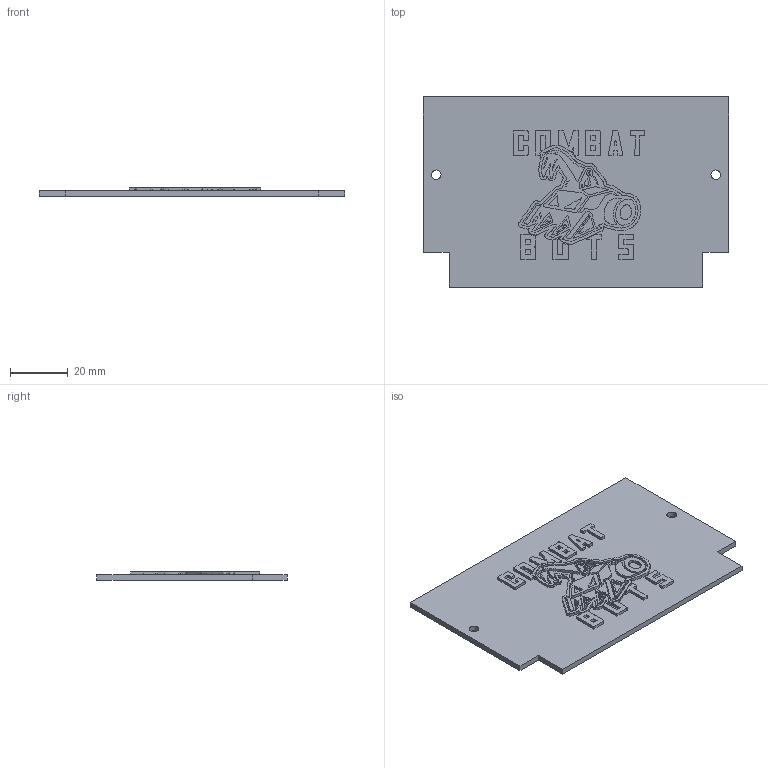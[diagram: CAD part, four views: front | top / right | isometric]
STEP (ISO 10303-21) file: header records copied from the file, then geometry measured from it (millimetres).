
FILE_DESCRIPTION(/* description */ (''),/* implementation_level */ '2;1');
FILE_NAME(/* name */ 'tapa.step',/* time_stamp */ '2026-03-08T22:56:57+01:00',/* author */ (''),/* organization */ (''),/* preprocessor_version */ 'ST-DEVELOPER v20.1',/* originating_system */ 'Autodesk Translation Framework v14.24.0.0',/* authorisation */ '');
FILE_SCHEMA (('AUTOMOTIVE_DESIGN { 1 0 10303 214 3 1 1 }'));
Length unit declared in the file: millimetre
Products named in the file (1): Flanders (v3~recovered)
Bounding box: 106 x 66 x 3 mm (x, y, z)
Volume: 14256.4 mm3; surface area: 15383.3 mm2
Topology: 1 solids, 1 shells, 974 faces, 2766 edges, 1844 vertices
Faces by surface type: bspline 519, plane 286, cylinder 169
Full cylindrical faces by diameter (mm): 3.3 x2
Entity records: 38592 total; most frequent: CARTESIAN_POINT 15579, ORIENTED_EDGE 5532, DIRECTION 3681, EDGE_CURVE 2766, VERTEX_POINT 1844, LINE 1389, VECTOR 1389, AXIS2_PLACEMENT_3D 1146
